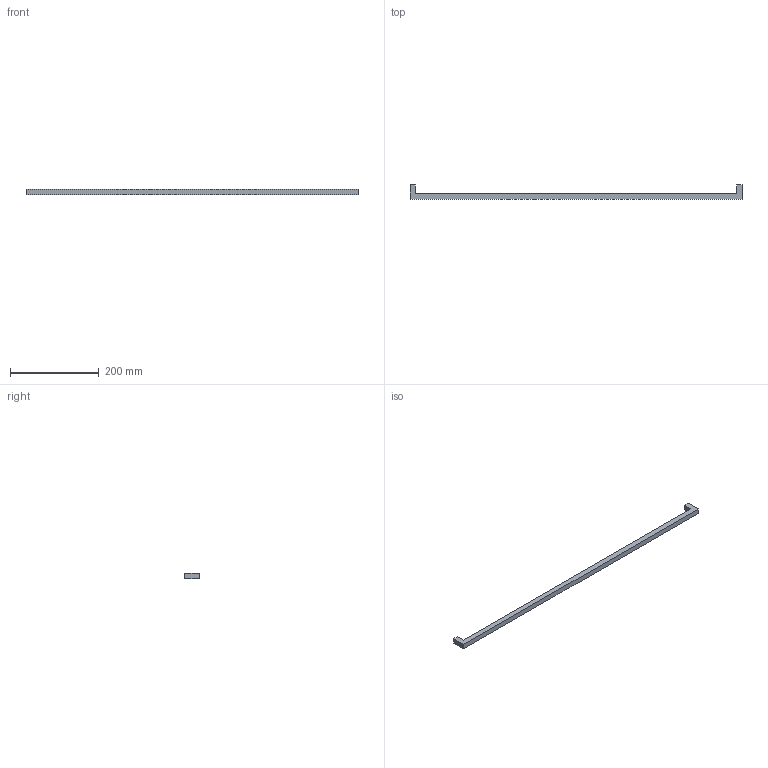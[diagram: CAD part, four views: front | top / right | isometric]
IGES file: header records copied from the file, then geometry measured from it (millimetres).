
Start section: Data from Parasolid IGES Translator 15.0.47, Copyright(c) 2006 Siemens P LM Software. All Rights Reserved.
Global section: file name: 9207352.igs; native system:  By UGS Corp.; preprocessor: XPlus GENERIC/IGES 3.0; author: Noname; organization: Noname; date: 20151215.135638; units: millimetre
Bounding box: 748 x 32 x 12 mm (x, y, z)
Surface area: 38363.3 mm2 (no closed solid volume)
Topology: 0 solids, 0 shells, 14 faces, 60 edges, 58 vertices
Faces by surface type: extrusion 12, revolution 2
